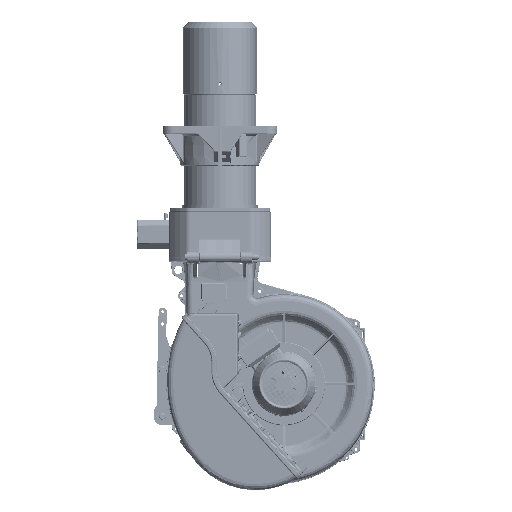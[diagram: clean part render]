
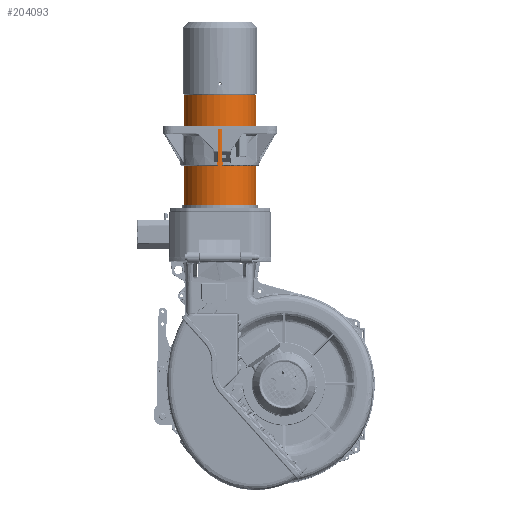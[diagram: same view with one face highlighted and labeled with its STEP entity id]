
A CAD part, left-side view. The second image highlights one B-rep face of the part: STEP entity #204093.
In plain terms, the highlighted cylindrical face has radius 88.9 mm (diameter 177.8 mm), a full revolution.
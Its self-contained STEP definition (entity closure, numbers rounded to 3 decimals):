
#6319 = ORIENTED_EDGE ( 'NONE', *, *, #312662, .T. ) ;
#11865 = FACE_OUTER_BOUND ( 'NONE', #38136, .T. ) ;
#22215 = DIRECTION ( 'NONE',  ( 0., 0., 1. ) ) ;
#30816 = CARTESIAN_POINT ( 'NONE',  ( 88.9, 0.001, 338.7 ) ) ;
#38136 = EDGE_LOOP ( 'NONE', ( #6319 ) ) ;
#77310 = DIRECTION ( 'NONE',  ( 0., 0., 1. ) ) ;
#113253 = AXIS2_PLACEMENT_3D ( 'NONE', #174890, #22215, #200459 ) ;
#116525 = VERTEX_POINT ( 'NONE', #30816 ) ;
#123073 = CARTESIAN_POINT ( 'NONE',  ( 0., 0., 57.7 ) ) ;
#127568 = CARTESIAN_POINT ( 'NONE',  ( 0., 0., 482.545 ) ) ;
#134725 = CIRCLE ( 'NONE', #113253, 88.9 ) ;
#135502 = CIRCLE ( 'NONE', #274662, 88.9 ) ;
#138671 = AXIS2_PLACEMENT_3D ( 'NONE', #127568, #77310, #204260 ) ;
#146238 = EDGE_LOOP ( 'NONE', ( #267060 ) ) ;
#148627 = DIRECTION ( 'NONE',  ( 1., 0., 0. ) ) ;
#174890 = CARTESIAN_POINT ( 'NONE',  ( 0., 0., 338.7 ) ) ;
#200459 = DIRECTION ( 'NONE',  ( 1., 0., 0. ) ) ;
#204093 = ADVANCED_FACE ( 'NONE', ( #11865, #267038 ), #326799, .T. ) ;
#204260 = DIRECTION ( 'NONE',  ( 1., 0., 0. ) ) ;
#206953 = EDGE_CURVE ( 'NONE', #116525, #116525, #134725, .T. ) ;
#257709 = CARTESIAN_POINT ( 'NONE',  ( 88.9, 0.001, 57.7 ) ) ;
#267038 = FACE_OUTER_BOUND ( 'NONE', #146238, .T. ) ;
#267060 = ORIENTED_EDGE ( 'NONE', *, *, #206953, .F. ) ;
#270878 = VERTEX_POINT ( 'NONE', #257709 ) ;
#274662 = AXIS2_PLACEMENT_3D ( 'NONE', #123073, #301153, #148627 ) ;
#301153 = DIRECTION ( 'NONE',  ( 0., 0., 1. ) ) ;
#312662 = EDGE_CURVE ( 'NONE', #270878, #270878, #135502, .T. ) ;
#326799 = CYLINDRICAL_SURFACE ( 'NONE', #138671, 88.9 ) ;
